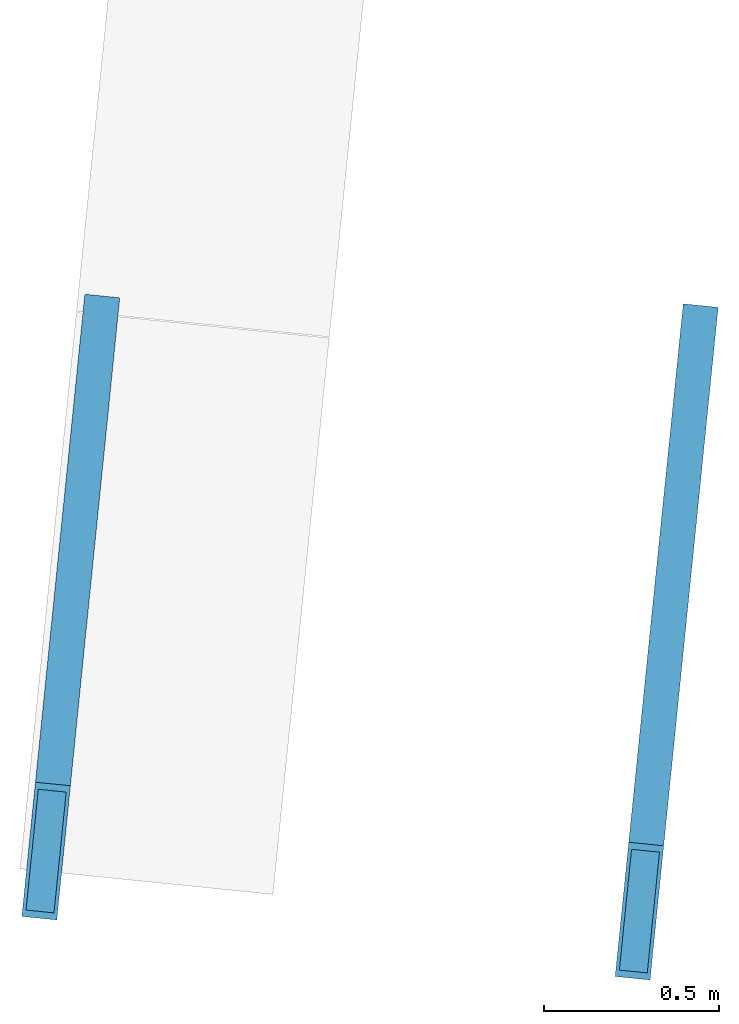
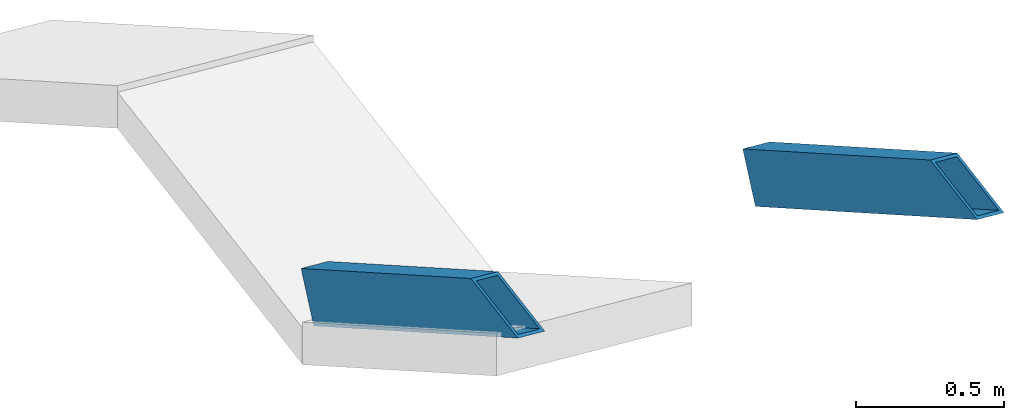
# One storey, part 1 of 2: 2 beams.
"""IFC2X3 building model written with IfcOpenShell, lengths in millimetres."""

from ifc_helpers import new_model, entity, si_unit, converted_unit, derived_unit, direction, frame, origin, origin_with_axes, place, context, subcontext, project, spatial, faceted_brep, type_object, element, save


model = new_model("IFC2X3")

# Units and contexts
plan_context = context("Plan", 3, precision=1e-05, world=origin_with_axes())
model_context = context("Model", 3, precision=0.01, world=origin(), true_north=direction((6.12323399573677e-17, 1.0)))
body_context = subcontext(model_context, "Body", "Model", "MODEL_VIEW")
ifc_project = project(units=[converted_unit("PLANEANGLEUNIT", "DEGREE", entity("IfcPositiveLengthMeasure", 0.0174532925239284), si_unit("PLANEANGLEUNIT", "RADIAN"), dimensions=[0, 0, 0, 0, 0, 0, 0]), si_unit("AREAUNIT", "SQUARE_METRE"), si_unit("LENGTHUNIT", "METRE", prefix="MILLI"), si_unit("MASSUNIT", "GRAM", prefix="KILO"), si_unit("POWERUNIT", "WATT"), si_unit("PRESSUREUNIT", "PASCAL", prefix="KILO"), si_unit("FORCEUNIT", "NEWTON", prefix="KILO"), si_unit("ELECTRICVOLTAGEUNIT", "VOLT"), si_unit("ELECTRICCURRENTUNIT", "AMPERE"), si_unit("THERMODYNAMICTEMPERATUREUNIT", "DEGREE_CELSIUS"), si_unit("TIMEUNIT", "SECOND"), si_unit("VOLUMEUNIT", "CUBIC_METRE"), derived_unit("LINEARVELOCITYUNIT", [(si_unit("LENGTHUNIT", "METRE"), 1), (si_unit("TIMEUNIT", "SECOND"), -1)]), derived_unit("VOLUMETRICFLOWRATEUNIT", [(si_unit("VOLUMEUNIT", "CUBIC_METRE"), 1), (si_unit("TIMEUNIT", "SECOND"), -1)]), derived_unit("THERMALTRANSMITTANCEUNIT", [(si_unit("POWERUNIT", "WATT"), 1), (si_unit("THERMODYNAMICTEMPERATUREUNIT", "KELVIN"), -1), (si_unit("AREAUNIT", "SQUARE_METRE"), -1)]), derived_unit("SOUNDPRESSUREUNIT", [(si_unit("PRESSUREUNIT", "PASCAL"), 1)])], contexts=[model_context, plan_context])

# Site, building, storey
site_placement = place(None, frame((-0.00071070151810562, 0.00438415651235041, 0.0), z_axis=(0.0, 0.0, 1.0), x_axis=(-0.160236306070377, 0.987078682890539, 0.0)))
site = spatial("IfcSite", under=ifc_project, at=site_placement, Name="Default", CompositionType="ELEMENT")
building_placement = place(site_placement, origin_with_axes())
building = spatial("IfcBuilding", under=site, at=building_placement, Name="TOO", CompositionType="ELEMENT")
storey_placement = place(building_placement, frame((0.0, 0.0, 63999.9999999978), z_axis=(0.0, 0.0, 1.0), x_axis=(1.0, 0.0, 0.0)))
storey = spatial("IfcBuildingStorey", under=building, at=storey_placement, Name="Nivå G", CompositionType="ELEMENT", Elevation=63999.9999999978)

# Beams
beam_type = type_object("IfcBeamType", Name="Rectangular Hollow Sections_Parameter:RHS100x200x10", PredefinedType="BEAM")
beam_1_placement = place(storey_placement, frame((765627.466254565, -505343.204409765, -2454.81297825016), z_axis=(0.502296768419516, -0.13459001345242, 0.854156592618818), x_axis=(-0.825051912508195, 0.221071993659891, 0.52001587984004)))
element("IfcBeam", 1, at=beam_1_placement, inside=storey, type_object=beam_type, Name="Rectangular Hollow Sections_Parameter:RHS100x200x10", ObjectType="Rectangular Hollow Sections_Parameter:RHS100x200x10", context=body_context, shape_type="Brep", body=[
    faceted_brep([(1507.61099827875, 49.9999999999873, 199.999999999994), (1507.61099827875, -49.9999999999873, 199.999999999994), (-129.582888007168, -49.9999999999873, 199.999999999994), (-129.582888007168, 49.9999999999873, 199.999999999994), (1836.12273252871, -49.9999999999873, -1.60156332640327e-11), (-129.582888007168, -49.9999999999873, -1.60156332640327e-11), (1836.12273252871, 49.9999999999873, -1.60156332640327e-11), (-129.582888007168, 49.9999999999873, -1.60156332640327e-11), (-129.582888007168, 40.0000000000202, 9.99999999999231), (-129.582888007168, -40.0000000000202, 9.99999999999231), (-129.582888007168, -40.0000000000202, 190.000000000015), (-129.582888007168, 40.0000000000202, 190.000000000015), (1524.03658499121, -40.0000000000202, 190.000000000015), (1524.03658499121, 40.0000000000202, 190.000000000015), (1819.6971458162, -40.0000000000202, 9.99999999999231), (1819.6971458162, 40.0000000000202, 9.99999999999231)], [[[0, 1, 2, 3]], [[1, 4, 5, 2]], [[4, 6, 7, 5]], [[6, 0, 3, 7]], [[3, 2, 5, 7], [8, 9, 10, 11]], [[12, 13, 11, 10]], [[14, 12, 10, 9]], [[15, 14, 9, 8]], [[13, 15, 8, 11]], [[6, 4, 1, 0], [14, 15, 13, 12]]], orient=[[False], [False], [False], [False], [False, False], [False], [False], [False], [False], [False, False]]),
])
beam_2_placement = place(storey_placement, frame((765326.820614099, -507023.01281939, -2542.70330592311), z_axis=(0.502296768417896, -0.134590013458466, 0.854156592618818), x_axis=(-0.825051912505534, 0.221071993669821, 0.52001587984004)))
element("IfcBeam", 2, at=beam_2_placement, inside=storey, type_object=beam_type, Name="Rectangular Hollow Sections_Parameter:RHS100x200x10", ObjectType="Rectangular Hollow Sections_Parameter:RHS100x200x10", context=body_context, shape_type="Brep", body=[
    faceted_brep([(1676.62569779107, 50.0000000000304, 200.000000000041), (1676.62569779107, -49.9999999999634, 200.000000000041), (-130.075538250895, -49.9999999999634, 200.000000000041), (-130.075538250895, 50.0000000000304, 200.000000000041), (2005.13743204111, -49.9999999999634, -1.73372427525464e-11), (-130.075538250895, -49.9999999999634, -1.73372427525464e-11), (2005.13743204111, 50.0000000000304, -1.73372427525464e-11), (-130.075538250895, 50.0000000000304, -1.73372427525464e-11), (-130.075538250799, 39.9999999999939, 9.9999999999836), (-130.075538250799, -40.0000000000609, 9.9999999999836), (-130.075538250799, -40.0000000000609, 190.0), (-130.075538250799, 39.9999999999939, 190.0), (1693.05128450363, -40.0000000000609, 190.0), (1693.05128450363, 39.9999999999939, 190.0), (1988.71184532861, 39.9999999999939, 9.9999999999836), (1988.71184532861, -40.0000000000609, 9.9999999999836)], [[[0, 1, 2, 3]], [[1, 4, 5, 2]], [[4, 6, 7, 5]], [[6, 0, 3, 7]], [[3, 2, 5, 7], [8, 9, 10, 11]], [[12, 13, 11, 10]], [[13, 14, 8, 11]], [[14, 15, 9, 8]], [[15, 12, 10, 9]], [[6, 4, 1, 0], [15, 14, 13, 12]]], orient=[[False], [False], [False], [False], [False, False], [False], [False], [False], [False], [False, False]]),
])

save(model, "model.ifc")
